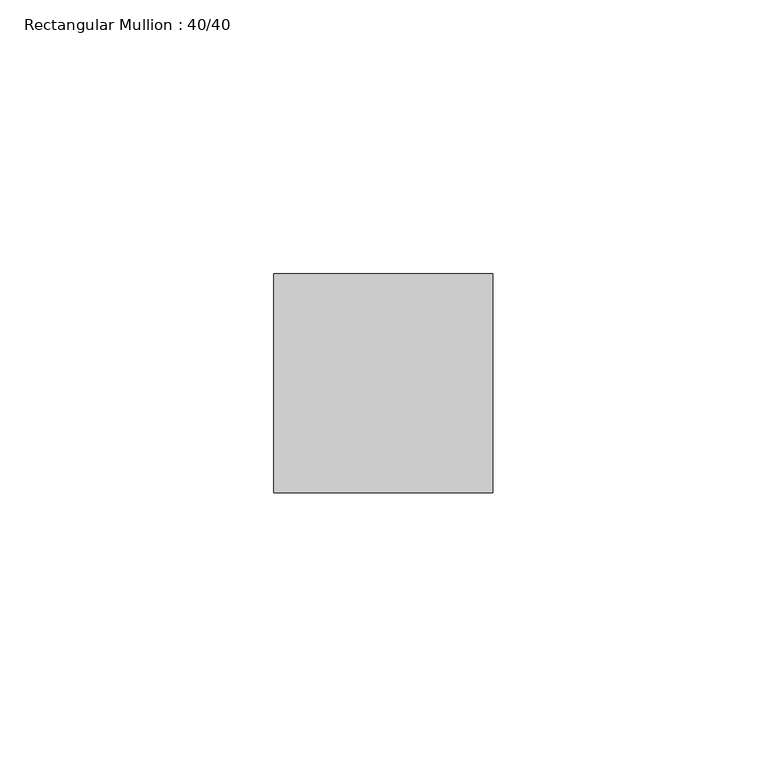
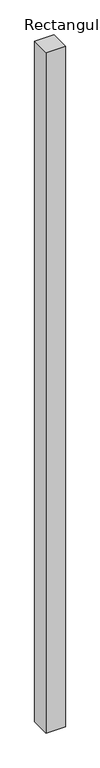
"""IFC4 building model written with IfcOpenShell, lengths in millimetres: member geometry, Rectangular Mullion : 40/40."""

from ifc_helpers import new_model, si_unit, frame, origin, place, context, project, spatial, polyline, outline, extrude, source, transform, mapped, element, save


def rectangular_mullion_40_40_c07c6f16(model_context):
    return source(origin(), model_context, "Body", "SweptSolid", [
        extrude(outline(polyline([(0.0, 20.0), (0.0, -20.0), (-40.0, -20.0), (-40.0, 20.0), (0.0, 20.0)])), frame((0.0, 0.0, -1480.0), z_axis=(0.0, 0.0, 1.0), x_axis=(1.0, 0.0, 0.0)), (0.0, 0.0, 1.0), 1480.0),
    ])


if __name__ == "__main__":
    model = new_model("IFC4")
    model_context = context("Model", 3, world=origin())
    ifc_project = project(units=[si_unit("LENGTHUNIT", "METRE", prefix="MILLI")], contexts=[model_context])
    site = spatial("IfcSite", under=ifc_project)
    building = spatial("IfcBuilding", under=site)
    placement = place(None, origin())
    rectangular_mullion_40_40_shape = rectangular_mullion_40_40_c07c6f16(model_context)
    element("IfcMember", 1, ObjectType="Rectangular Mullion : 40/40", at=placement, inside=building, context=model_context, shape_type="MappedRepresentation", body=[
        mapped(rectangular_mullion_40_40_shape, transform((0.0, 0.0, 0.0), x_axis=(1.0, 0.0, 0.0), y_axis=(0.0, 1.0, 0.0), z_axis=(0.0, 0.0, 1.0))),
    ])
    save(model, "model.ifc")
